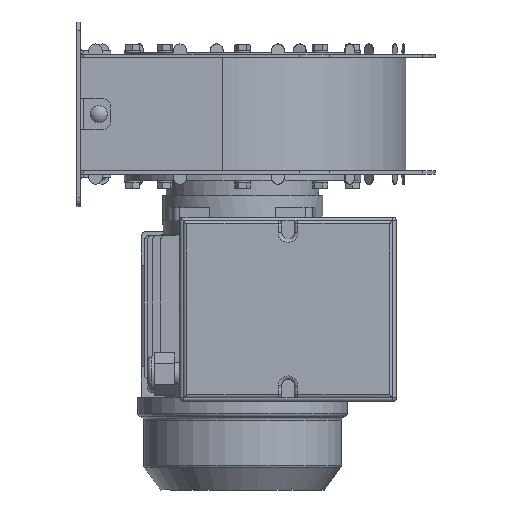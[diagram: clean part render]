
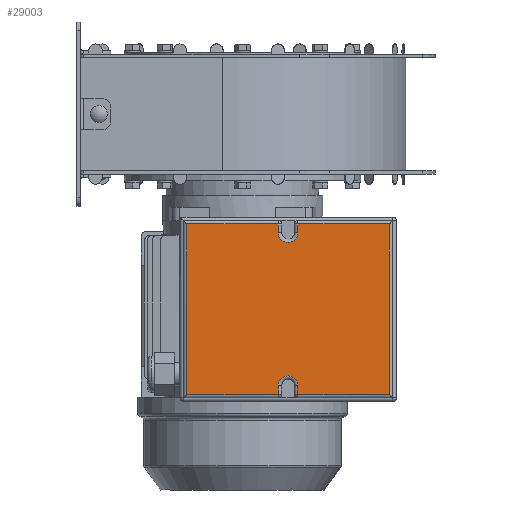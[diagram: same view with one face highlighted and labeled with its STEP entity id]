
A CAD part, front view. The second image highlights one B-rep face of the part: STEP entity #29003.
In plain terms, the highlighted planar face has unit normal (0, -1, 0).
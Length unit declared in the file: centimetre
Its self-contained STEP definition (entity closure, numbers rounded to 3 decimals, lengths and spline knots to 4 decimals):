
#1958=PLANE('',#31250);
#3261=FACE_OUTER_BOUND('',#5349,.T.);
#5349=EDGE_LOOP('',(#22740,#22741,#22742,#22743,#22744,#22745,#22746,#22747,
#22748,#22749,#22750,#22751));
#7872=LINE('',#46311,#10218);
#7873=LINE('',#46322,#10219);
#7880=LINE('',#46361,#10226);
#7881=LINE('',#46365,#10227);
#7882=LINE('',#46367,#10228);
#7883=LINE('',#46369,#10229);
#7884=LINE('',#46371,#10230);
#7885=LINE('',#46375,#10231);
#7886=LINE('',#46377,#10232);
#7887=LINE('',#46378,#10233);
#10218=VECTOR('',#37004,0.525);
#10219=VECTOR('',#37017,0.525);
#10226=VECTOR('',#37042,5.425);
#10227=VECTOR('',#37047,5.425);
#10228=VECTOR('',#37048,10.1);
#10229=VECTOR('',#37049,5.425);
#10230=VECTOR('',#37050,0.525);
#10231=VECTOR('',#37053,0.525);
#10232=VECTOR('',#37054,5.425);
#10233=VECTOR('',#37055,10.1);
#11445=CIRCLE('',#31236,0.575);
#11452=CIRCLE('',#31251,0.575);
#13532=VERTEX_POINT('',#46305);
#13534=VERTEX_POINT('',#46309);
#13536=VERTEX_POINT('',#46314);
#13538=VERTEX_POINT('',#46320);
#13545=VERTEX_POINT('',#46360);
#13546=VERTEX_POINT('',#46364);
#13547=VERTEX_POINT('',#46366);
#13548=VERTEX_POINT('',#46368);
#13549=VERTEX_POINT('',#46370);
#13550=VERTEX_POINT('',#46372);
#13551=VERTEX_POINT('',#46374);
#13552=VERTEX_POINT('',#46376);
#16798=EDGE_CURVE('',#13534,#13532,#7872,.T.);
#16800=EDGE_CURVE('',#13536,#13534,#11445,.T.);
#16803=EDGE_CURVE('',#13538,#13536,#7873,.T.);
#16815=EDGE_CURVE('',#13532,#13545,#7880,.T.);
#16817=EDGE_CURVE('',#13546,#13538,#7881,.T.);
#16818=EDGE_CURVE('',#13547,#13546,#7882,.T.);
#16819=EDGE_CURVE('',#13548,#13547,#7883,.T.);
#16820=EDGE_CURVE('',#13549,#13548,#7884,.T.);
#16821=EDGE_CURVE('',#13550,#13549,#11452,.T.);
#16822=EDGE_CURVE('',#13551,#13550,#7885,.T.);
#16823=EDGE_CURVE('',#13552,#13551,#7886,.T.);
#16824=EDGE_CURVE('',#13545,#13552,#7887,.T.);
#22740=ORIENTED_EDGE('',*,*,#16798,.F.);
#22741=ORIENTED_EDGE('',*,*,#16800,.F.);
#22742=ORIENTED_EDGE('',*,*,#16803,.F.);
#22743=ORIENTED_EDGE('',*,*,#16817,.F.);
#22744=ORIENTED_EDGE('',*,*,#16818,.F.);
#22745=ORIENTED_EDGE('',*,*,#16819,.F.);
#22746=ORIENTED_EDGE('',*,*,#16820,.F.);
#22747=ORIENTED_EDGE('',*,*,#16821,.F.);
#22748=ORIENTED_EDGE('',*,*,#16822,.F.);
#22749=ORIENTED_EDGE('',*,*,#16823,.F.);
#22750=ORIENTED_EDGE('',*,*,#16824,.F.);
#22751=ORIENTED_EDGE('',*,*,#16815,.F.);
#29003=ADVANCED_FACE('',(#3261),#1958,.T.);
#31236=AXIS2_PLACEMENT_3D('',#46316,#37009,#37010);
#31250=AXIS2_PLACEMENT_3D('',#46363,#37045,#37046);
#31251=AXIS2_PLACEMENT_3D('',#46373,#37051,#37052);
#37004=DIRECTION('',(0.,0.,1.));
#37009=DIRECTION('center_axis',(0.,-1.,0.));
#37010=DIRECTION('ref_axis',(0.,0.,
-1.));
#37017=DIRECTION('',(0.,0.,-1.));
#37042=DIRECTION('',(1.,0.,0.));
#37045=DIRECTION('center_axis',(0.,-1.,0.));
#37046=DIRECTION('ref_axis',(0.,0.,1.));
#37047=DIRECTION('',(1.,0.,0.));
#37048=DIRECTION('',(0.,0.,1.));
#37049=DIRECTION('',(-1.,0.,0.));
#37050=DIRECTION('',(0.,0.,-1.));
#37051=DIRECTION('center_axis',(0.,-1.,0.));
#37052=DIRECTION('ref_axis',(0.,0.,
1.));
#37053=DIRECTION('',(0.,0.,1.));
#37054=DIRECTION('',(-1.,0.,0.));
#37055=DIRECTION('',(0.,0.,-1.));
#46305=CARTESIAN_POINT('',(3.275,-12.5,-2.95));
#46309=CARTESIAN_POINT('',(3.275,-12.5,-3.475));
#46311=CARTESIAN_POINT('',(3.275,-12.5,-3.1125));
#46314=CARTESIAN_POINT('',(2.125,-12.5,-3.475));
#46316=CARTESIAN_POINT('Origin',(2.7,-12.5,-3.475));
#46320=CARTESIAN_POINT('',(2.125,-12.5,-2.95));
#46322=CARTESIAN_POINT('',(2.125,-12.5,-2.75));
#46360=CARTESIAN_POINT('',(8.7,-12.5,-2.95));
#46361=CARTESIAN_POINT('',(5.1,-12.5,-2.95));
#46363=CARTESIAN_POINT('Origin',(6.7,-12.5,-2.75));
#46364=CARTESIAN_POINT('',(-3.3,-12.5,-2.95));
#46365=CARTESIAN_POINT('',(5.1,-12.5,-2.95));
#46366=CARTESIAN_POINT('',(-3.3,-12.5,-13.05));
#46367=CARTESIAN_POINT('',(-3.3,-12.5,-2.75));
#46368=CARTESIAN_POINT('',(2.125,-12.5,-13.05));
#46369=CARTESIAN_POINT('',(7.25,-12.5,-13.05));
#46370=CARTESIAN_POINT('',(2.125,-12.5,-12.525));
#46371=CARTESIAN_POINT('',(2.125,-12.5,-7.6375));
#46372=CARTESIAN_POINT('',(3.275,-12.5,-12.525));
#46373=CARTESIAN_POINT('Origin',(2.7,-12.5,-12.525));
#46374=CARTESIAN_POINT('',(3.275,-12.5,-13.05));
#46375=CARTESIAN_POINT('',(3.275,-12.5,-8.));
#46376=CARTESIAN_POINT('',(8.7,-12.5,-13.05));
#46377=CARTESIAN_POINT('',(7.25,-12.5,-13.05));
#46378=CARTESIAN_POINT('',(8.7,-12.5,-2.75));
